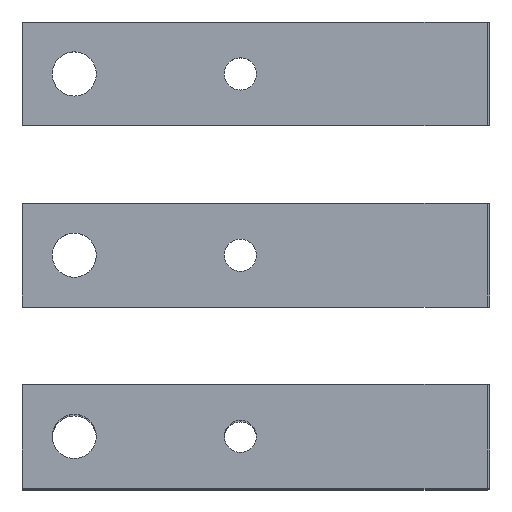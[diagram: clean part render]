
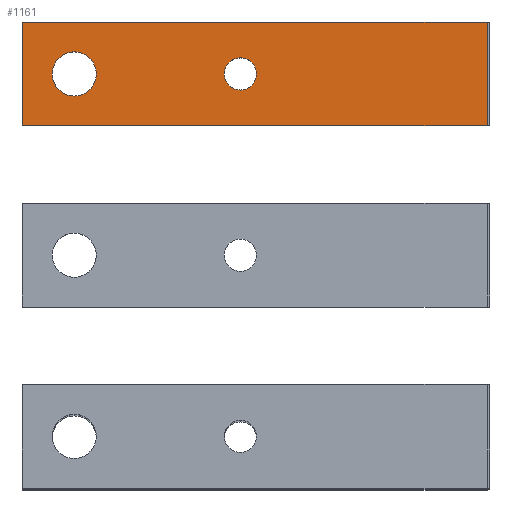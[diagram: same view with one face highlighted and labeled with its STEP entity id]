
A CAD part, top view. The second image highlights one B-rep face of the part: STEP entity #1161.
In plain terms, the highlighted planar face has unit normal (0, 0, 1).
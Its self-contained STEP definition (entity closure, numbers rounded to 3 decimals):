
#366=CARTESIAN_POINT(' ',(-39.25,0.,0.));
#367=VERTEX_POINT(' ',#366);
#381=CARTESIAN_POINT(' ',(-35.,0.,0.));
#386=DIRECTION(' ',(0.,-0.,1.));
#391=DIRECTION(' ',(-1.,0.,0.));
#396=AXIS2_PLACEMENT_3D(' ',#381,#386,#391);
#401=CIRCLE('',#396,4.25);
#406=CARTESIAN_POINT(' ',(-30.75,0.,0.));
#407=VERTEX_POINT(' ',#406);
#411=EDGE_CURVE(' ',#367,#407,#401,.T.);
#826=CARTESIAN_POINT(' ',(-35.,0.,0.));
#831=DIRECTION(' ',(0.,0.,1.));
#836=DIRECTION(' ',(1.,0.,0.));
#841=AXIS2_PLACEMENT_3D(' ',#826,#831,#836);
#846=CIRCLE('',#841,4.25);
#851=EDGE_CURVE(' ',#407,#367,#846,.T.);
#876=DIRECTION(' ',(-0.,0.,1.));
#881=CARTESIAN_POINT(' ',(-45.,-10.,0.));
#886=DIRECTION(' ',(1.,0.,0.));
#891=AXIS2_PLACEMENT_3D(' ',#881,#876,#886);
#896=PLANE('NONE',#891);
#901=CARTESIAN_POINT(' ',(-45.,-10.,0.));
#906=DIRECTION(' ',(1.,0.,0.));
#911=VECTOR(' ',#906,1.);
#916=LINE('',#901,#911);
#921=CARTESIAN_POINT(' ',(-45.,-10.,0.));
#922=VERTEX_POINT(' ',#921);
#926=CARTESIAN_POINT(' ',(44.5,-10.,0.));
#927=VERTEX_POINT(' ',#926);
#931=EDGE_CURVE(' ',#922,#927,#916,.T.);
#936=ORIENTED_EDGE(' ',*,*,#931,.T.);
#941=CARTESIAN_POINT(' ',(44.5,-10.,0.));
#946=DIRECTION(' ',(0.,1.,0.));
#951=VECTOR(' ',#946,1.);
#956=LINE('',#941,#951);
#961=CARTESIAN_POINT(' ',(44.5,10.,0.));
#962=VERTEX_POINT(' ',#961);
#966=EDGE_CURVE(' ',#927,#962,#956,.T.);
#971=ORIENTED_EDGE(' ',*,*,#966,.T.);
#976=CARTESIAN_POINT(' ',(44.5,10.,0.));
#981=DIRECTION(' ',(-1.,0.,0.));
#986=VECTOR(' ',#981,1.);
#991=LINE('',#976,#986);
#996=CARTESIAN_POINT(' ',(-45.,10.,0.));
#997=VERTEX_POINT(' ',#996);
#1001=EDGE_CURVE(' ',#962,#997,#991,.T.);
#1006=ORIENTED_EDGE(' ',*,*,#1001,.T.);
#1011=CARTESIAN_POINT(' ',(-45.,10.,0.));
#1016=DIRECTION(' ',(0.,-1.,0.));
#1021=VECTOR(' ',#1016,1.);
#1026=LINE('',#1011,#1021);
#1031=EDGE_CURVE(' ',#997,#922,#1026,.T.);
#1036=ORIENTED_EDGE(' ',*,*,#1031,.T.);
#1041=EDGE_LOOP(' ',(#936,#971,#1006,#1036));
#1046=FACE_OUTER_BOUND(' ',#1041,.T.);
#1051=ORIENTED_EDGE(' ',*,*,#851,.F.);
#1056=ORIENTED_EDGE(' ',*,*,#411,.F.);
#1061=EDGE_LOOP(' ',(#1051,#1056));
#1066=FACE_BOUND(' ',#1061,.T.);
#1071=CARTESIAN_POINT(' ',(-3.,0.,0.));
#1076=DIRECTION(' ',(0.,0.,1.));
#1081=DIRECTION(' ',(1.,0.,0.));
#1086=AXIS2_PLACEMENT_3D(' ',#1071,#1076,#1081);
#1091=CIRCLE('',#1086,3.1);
#1096=CARTESIAN_POINT(' ',(0.1,0.,0.));
#1097=VERTEX_POINT(' ',#1096);
#1101=CARTESIAN_POINT(' ',(-6.1,0.,0.));
#1102=VERTEX_POINT(' ',#1101);
#1106=EDGE_CURVE(' ',#1097,#1102,#1091,.T.);
#1111=ORIENTED_EDGE(' ',*,*,#1106,.F.);
#1116=CARTESIAN_POINT(' ',(-3.,0.,0.));
#1121=DIRECTION(' ',(0.,-0.,1.));
#1126=DIRECTION(' ',(-1.,0.,0.));
#1131=AXIS2_PLACEMENT_3D(' ',#1116,#1121,#1126);
#1136=CIRCLE('',#1131,3.1);
#1141=EDGE_CURVE(' ',#1102,#1097,#1136,.T.);
#1146=ORIENTED_EDGE(' ',*,*,#1141,.F.);
#1151=EDGE_LOOP(' ',(#1111,#1146));
#1156=FACE_BOUND(' ',#1151,.T.);
#1161=ADVANCED_FACE('NONE',(#1046,#1066,#1156),#896,.T.);
